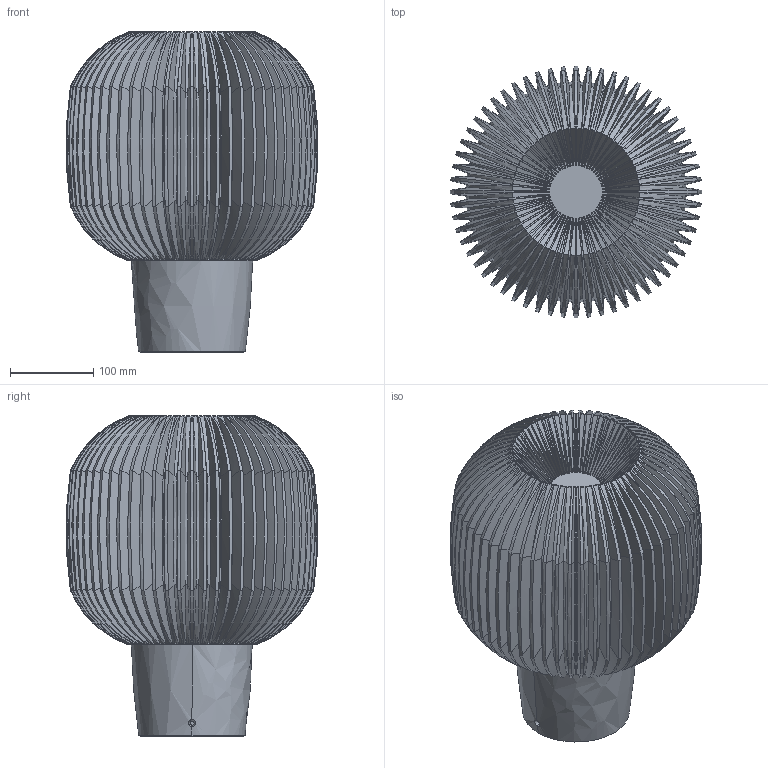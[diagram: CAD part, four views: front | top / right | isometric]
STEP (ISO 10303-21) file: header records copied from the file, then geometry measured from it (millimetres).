
FILE_DESCRIPTION(/* description */ (''),/* implementation_level */ '2;1');
FILE_NAME(/* name */ 'iloo2-bloco',/* time_stamp */ '2023-05-06T20:17:12-03:00',/* author */ (''),/* organization */ (''),/* preprocessor_version */ 'ST-DEVELOPER v15',/* originating_system */ '',/* authorisation */ '');
FILE_SCHEMA (('AUTOMOTIVE_DESIGN'));
Length unit declared in the file: millimetre
Products named in the file (1): Document
Bounding box: 302.95 x 302.95 x 385.9 mm (x, y, z)
Volume: 15354497.6 mm3; surface area: 984681.8 mm2
Topology: 4 solids, 4 shells, 1932 faces, 4662 edges, 2787 vertices
Faces by surface type: bspline 1430, plane 502
Entity records: 82942 total; most frequent: CARTESIAN_POINT 53467, ORIENTED_EDGE 9324, EDGE_CURVE 4662, B_SPLINE_CURVE_WITH_KNOTS 4152, VERTEX_POINT 2787, EDGE_LOOP 1981, ADVANCED_FACE 1932, FACE_OUTER_BOUND 1932
